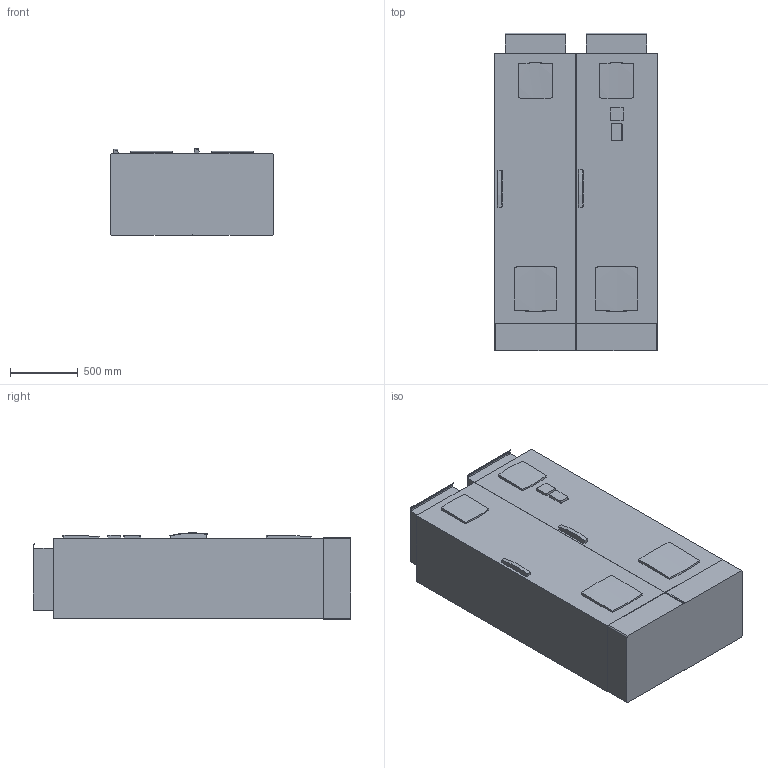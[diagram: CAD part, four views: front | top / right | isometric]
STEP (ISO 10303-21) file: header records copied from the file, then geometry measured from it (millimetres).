
FILE_DESCRIPTION(('STEP AP242'),'1');
FILE_NAME('atv660c56q4x1.stp','2021-09-28T08:42:42',('TraceParts'),('TraceParts S.A.'),'Spatial InterOp 3D',' ',' ');
FILE_SCHEMA(('AP242_MANAGED_MODEL_BASED_3D_ENGINEERING_MIM_LF {1 0 10303 442 1 1 4}'));
Length unit declared in the file: millimetre
Products named in the file (1): atv660c56q4x1_1
Bounding box: 1205 x 2352.5 x 641.06 mm (x, y, z)
Volume: 1658099234.2 mm3; surface area: 11608979.6 mm2
Topology: 2 solids, 2 shells, 100 faces, 265 edges, 177 vertices
Faces by surface type: plane 64, cylinder 26, revolution 6, bspline 4
Entity records: 3394 total; most frequent: CARTESIAN_POINT 900, ORIENTED_EDGE 530, DIRECTION 475, EDGE_CURVE 265, VERTEX_POINT 177, LINE 177, VECTOR 177, AXIS2_PLACEMENT_3D 146
